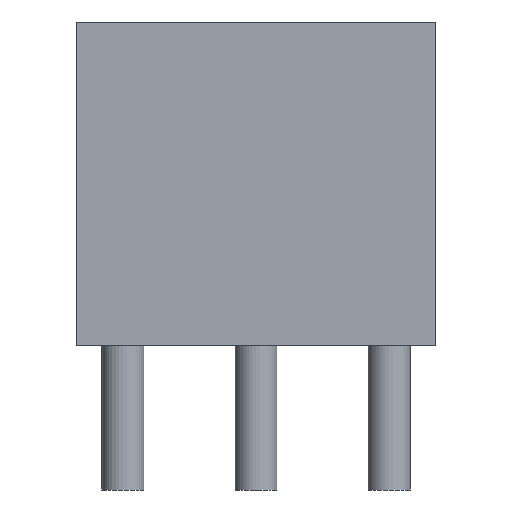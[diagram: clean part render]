
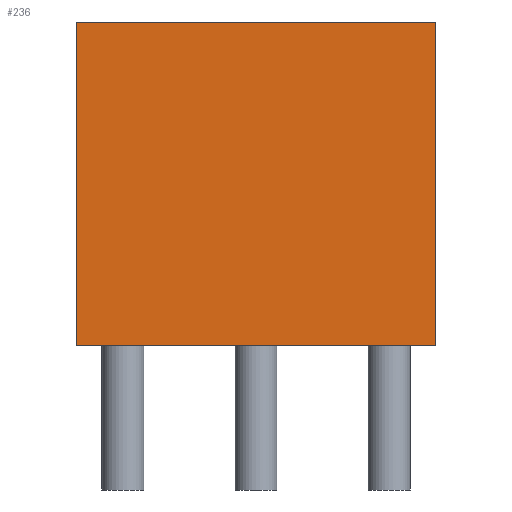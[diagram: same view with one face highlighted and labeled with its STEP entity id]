
A CAD part, front view. The second image highlights one B-rep face of the part: STEP entity #236.
In plain terms, the highlighted planar face has unit normal (0, -1, 0).
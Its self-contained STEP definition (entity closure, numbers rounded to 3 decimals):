
#67 = PLANE('',#68);
#68 = AXIS2_PLACEMENT_3D('',#69,#70,#71);
#69 = CARTESIAN_POINT('',(-1.65,-3.3,0.));
#70 = DIRECTION('',(-1.,0.,0.));
#71 = DIRECTION('',(0.,1.,0.));
#95 = PLANE('',#96);
#96 = AXIS2_PLACEMENT_3D('',#97,#98,#99);
#97 = CARTESIAN_POINT('',(4.7,0.,11.43));
#98 = DIRECTION('',(0.,0.,-1.));
#99 = DIRECTION('',(-1.,0.,0.));
#123 = PLANE('',#124);
#124 = AXIS2_PLACEMENT_3D('',#125,#126,#127);
#125 = CARTESIAN_POINT('',(11.05,3.3,0.));
#126 = DIRECTION('',(1.,0.,-0.));
#127 = DIRECTION('',(0.,-1.,0.));
#149 = PLANE('',#150);
#150 = AXIS2_PLACEMENT_3D('',#151,#152,#153);
#151 = CARTESIAN_POINT('',(4.7,0.,0.));
#152 = DIRECTION('',(0.,0.,-1.));
#153 = DIRECTION('',(-1.,0.,0.));
#166 = VERTEX_POINT('',#167);
#167 = CARTESIAN_POINT('',(11.05,-3.3,11.43));
#188 = EDGE_CURVE('',#189,#166,#191,.T.);
#189 = VERTEX_POINT('',#190);
#190 = CARTESIAN_POINT('',(11.05,-3.3,0.));
#191 = SURFACE_CURVE('',#192,(#196,#203),.PCURVE_S1.);
#192 = LINE('',#193,#194);
#193 = CARTESIAN_POINT('',(11.05,-3.3,0.));
#194 = VECTOR('',#195,1.);
#195 = DIRECTION('',(0.,0.,1.));
#196 = PCURVE('',#123,#197);
#197 = DEFINITIONAL_REPRESENTATION('',(#198),#202);
#198 = LINE('',#199,#200);
#199 = CARTESIAN_POINT('',(6.6,0.));
#200 = VECTOR('',#201,1.);
#201 = DIRECTION('',(0.,-1.));
#202 = ( GEOMETRIC_REPRESENTATION_CONTEXT(2) 
PARAMETRIC_REPRESENTATION_CONTEXT() REPRESENTATION_CONTEXT('2D SPACE',''
  ) );
#203 = PCURVE('',#204,#209);
#204 = PLANE('',#205);
#205 = AXIS2_PLACEMENT_3D('',#206,#207,#208);
#206 = CARTESIAN_POINT('',(11.05,-3.3,0.));
#207 = DIRECTION('',(0.,-1.,0.));
#208 = DIRECTION('',(-1.,0.,0.));
#209 = DEFINITIONAL_REPRESENTATION('',(#210),#214);
#210 = LINE('',#211,#212);
#211 = CARTESIAN_POINT('',(0.,-0.));
#212 = VECTOR('',#213,1.);
#213 = DIRECTION('',(0.,-1.));
#214 = ( GEOMETRIC_REPRESENTATION_CONTEXT(2) 
PARAMETRIC_REPRESENTATION_CONTEXT() REPRESENTATION_CONTEXT('2D SPACE',''
  ) );
#236 = ADVANCED_FACE('',(#237),#204,.T.);
#237 = FACE_BOUND('',#238,.T.);
#238 = EDGE_LOOP('',(#239,#240,#263,#286));
#239 = ORIENTED_EDGE('',*,*,#188,.T.);
#240 = ORIENTED_EDGE('',*,*,#241,.T.);
#241 = EDGE_CURVE('',#166,#242,#244,.T.);
#242 = VERTEX_POINT('',#243);
#243 = CARTESIAN_POINT('',(-1.65,-3.3,11.43));
#244 = SURFACE_CURVE('',#245,(#249,#256),.PCURVE_S1.);
#245 = LINE('',#246,#247);
#246 = CARTESIAN_POINT('',(11.05,-3.3,11.43));
#247 = VECTOR('',#248,1.);
#248 = DIRECTION('',(-1.,0.,0.));
#249 = PCURVE('',#204,#250);
#250 = DEFINITIONAL_REPRESENTATION('',(#251),#255);
#251 = LINE('',#252,#253);
#252 = CARTESIAN_POINT('',(0.,-11.43));
#253 = VECTOR('',#254,1.);
#254 = DIRECTION('',(1.,0.));
#255 = ( GEOMETRIC_REPRESENTATION_CONTEXT(2) 
PARAMETRIC_REPRESENTATION_CONTEXT() REPRESENTATION_CONTEXT('2D SPACE',''
  ) );
#256 = PCURVE('',#95,#257);
#257 = DEFINITIONAL_REPRESENTATION('',(#258),#262);
#258 = LINE('',#259,#260);
#259 = CARTESIAN_POINT('',(-6.35,-3.3));
#260 = VECTOR('',#261,1.);
#261 = DIRECTION('',(1.,0.));
#262 = ( GEOMETRIC_REPRESENTATION_CONTEXT(2) 
PARAMETRIC_REPRESENTATION_CONTEXT() REPRESENTATION_CONTEXT('2D SPACE',''
  ) );
#263 = ORIENTED_EDGE('',*,*,#264,.F.);
#264 = EDGE_CURVE('',#265,#242,#267,.T.);
#265 = VERTEX_POINT('',#266);
#266 = CARTESIAN_POINT('',(-1.65,-3.3,0.));
#267 = SURFACE_CURVE('',#268,(#272,#279),.PCURVE_S1.);
#268 = LINE('',#269,#270);
#269 = CARTESIAN_POINT('',(-1.65,-3.3,0.));
#270 = VECTOR('',#271,1.);
#271 = DIRECTION('',(0.,0.,1.));
#272 = PCURVE('',#204,#273);
#273 = DEFINITIONAL_REPRESENTATION('',(#274),#278);
#274 = LINE('',#275,#276);
#275 = CARTESIAN_POINT('',(12.7,0.));
#276 = VECTOR('',#277,1.);
#277 = DIRECTION('',(0.,-1.));
#278 = ( GEOMETRIC_REPRESENTATION_CONTEXT(2) 
PARAMETRIC_REPRESENTATION_CONTEXT() REPRESENTATION_CONTEXT('2D SPACE',''
  ) );
#279 = PCURVE('',#67,#280);
#280 = DEFINITIONAL_REPRESENTATION('',(#281),#285);
#281 = LINE('',#282,#283);
#282 = CARTESIAN_POINT('',(0.,0.));
#283 = VECTOR('',#284,1.);
#284 = DIRECTION('',(0.,-1.));
#285 = ( GEOMETRIC_REPRESENTATION_CONTEXT(2) 
PARAMETRIC_REPRESENTATION_CONTEXT() REPRESENTATION_CONTEXT('2D SPACE',''
  ) );
#286 = ORIENTED_EDGE('',*,*,#287,.F.);
#287 = EDGE_CURVE('',#189,#265,#288,.T.);
#288 = SURFACE_CURVE('',#289,(#293,#300),.PCURVE_S1.);
#289 = LINE('',#290,#291);
#290 = CARTESIAN_POINT('',(11.05,-3.3,0.));
#291 = VECTOR('',#292,1.);
#292 = DIRECTION('',(-1.,0.,0.));
#293 = PCURVE('',#204,#294);
#294 = DEFINITIONAL_REPRESENTATION('',(#295),#299);
#295 = LINE('',#296,#297);
#296 = CARTESIAN_POINT('',(0.,-0.));
#297 = VECTOR('',#298,1.);
#298 = DIRECTION('',(1.,0.));
#299 = ( GEOMETRIC_REPRESENTATION_CONTEXT(2) 
PARAMETRIC_REPRESENTATION_CONTEXT() REPRESENTATION_CONTEXT('2D SPACE',''
  ) );
#300 = PCURVE('',#149,#301);
#301 = DEFINITIONAL_REPRESENTATION('',(#302),#306);
#302 = LINE('',#303,#304);
#303 = CARTESIAN_POINT('',(-6.35,-3.3));
#304 = VECTOR('',#305,1.);
#305 = DIRECTION('',(1.,0.));
#306 = ( GEOMETRIC_REPRESENTATION_CONTEXT(2) 
PARAMETRIC_REPRESENTATION_CONTEXT() REPRESENTATION_CONTEXT('2D SPACE',''
  ) );
